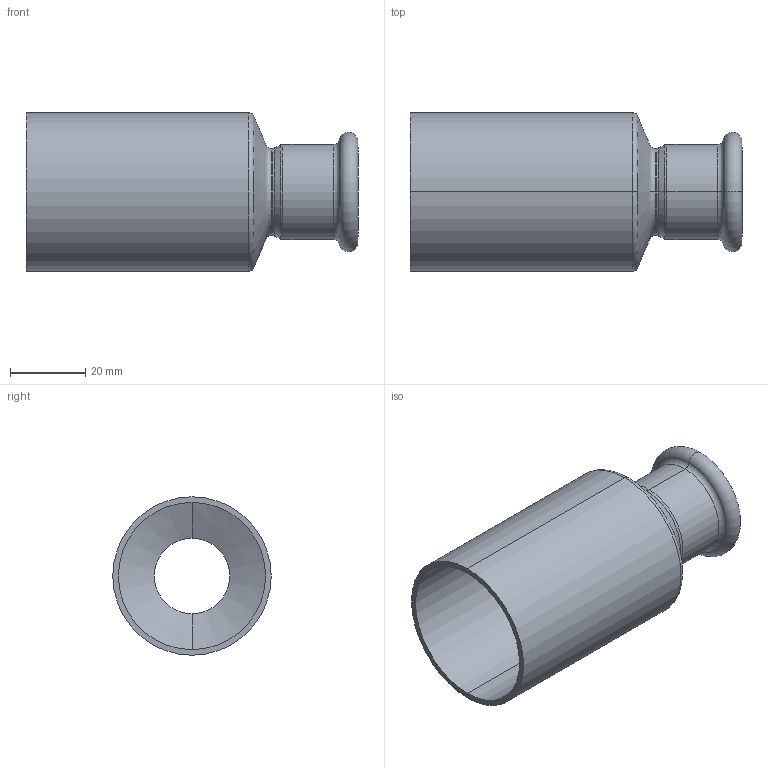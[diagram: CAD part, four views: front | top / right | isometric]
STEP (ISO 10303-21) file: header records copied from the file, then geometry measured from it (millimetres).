
FILE_DESCRIPTION (( 'STEP AP214' ), '1' );
FILE_NAME ('R42220B.STEP', '2025-08-18T00:14:25', ( '' ), ( '' ), 'SwSTEP 2.0', 'SolidWorks 2020', '' );
FILE_SCHEMA (( 'AUTOMOTIVE_DESIGN' ));
Length unit declared in the file: millimetre
Products named in the file (1): R42220B
Bounding box: 88 x 42 x 42 mm (x, y, z)
Volume: 16519.9 mm3; surface area: 21832.1 mm2
Topology: 1 solids, 1 shells, 43 faces, 86 edges, 46 vertices
Faces by surface type: torus 16, cylinder 14, cone 10, plane 3
Entity records: 1192 total; most frequent: DIRECTION 236, CARTESIAN_POINT 176, ORIENTED_EDGE 172, AXIS2_PLACEMENT_3D 106, EDGE_CURVE 86, CIRCLE 62, EDGE_LOOP 46, VERTEX_POINT 46
